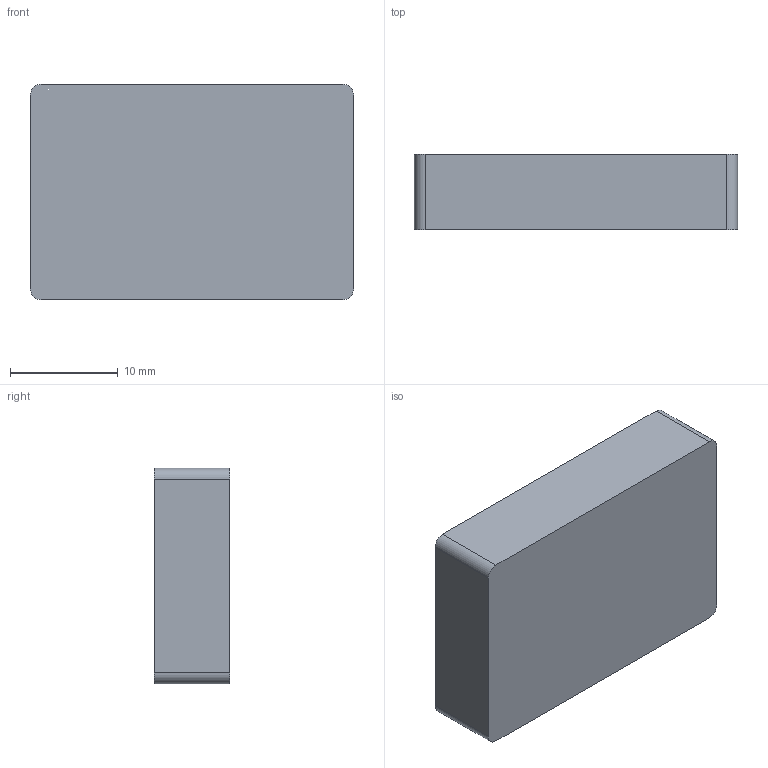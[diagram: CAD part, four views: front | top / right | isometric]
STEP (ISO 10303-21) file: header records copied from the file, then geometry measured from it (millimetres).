
FILE_DESCRIPTION(('Open CASCADE Model'),'2;1');
FILE_NAME('Open CASCADE Shape Model','2026-10-01T12:35:22',('Author'),( 'Open CASCADE'),'Open CASCADE STEP processor 7.8','Open CASCADE 7.8' ,'Unknown');
FILE_SCHEMA(('AUTOMOTIVE_DESIGN { 1 0 10303 214 1 1 1 1 }'));
Length unit declared in the file: millimetre
Products named in the file (2): E06_3020_speaker_PAL36; E06_3020_speaker_PAL36_solid
Assembly tree (1 placements, depth 2):
  E06_3020_speaker_PAL36
    E06_3020_speaker_PAL36_solid
Bounding box: 30 x 7 x 20 mm (x, y, z)
Volume: 4194 mm3; surface area: 1886.3 mm2
Topology: 1 solids, 1 shells, 10 faces, 24 edges, 16 vertices
Faces by surface type: plane 6, cylinder 4
Entity records: 657 total; most frequent: CARTESIAN_POINT 124, DIRECTION 100, LINE 56, VECTOR 56, ORIENTED_EDGE 48, PCURVE 48, DEFINITIONAL_REPRESENTATION 48, EDGE_CURVE 24
